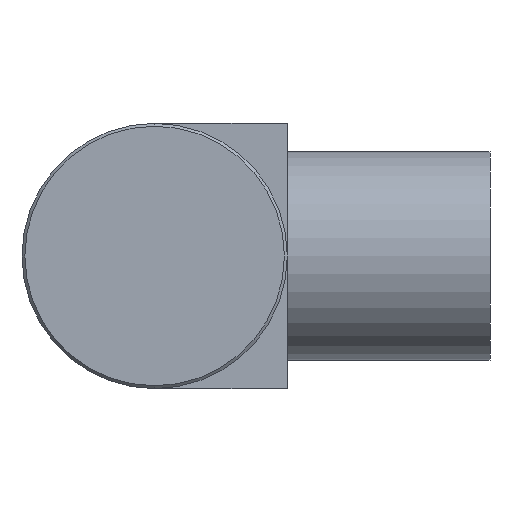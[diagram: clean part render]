
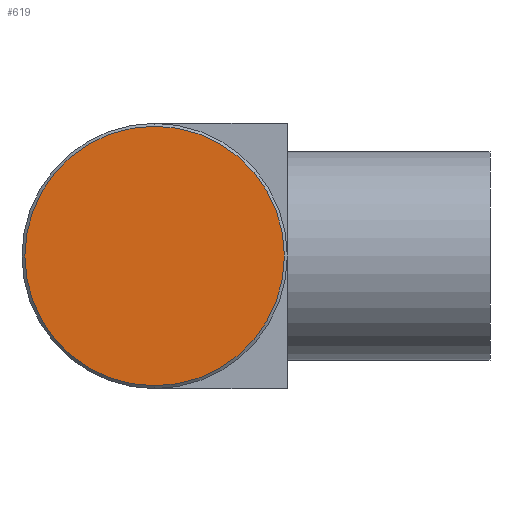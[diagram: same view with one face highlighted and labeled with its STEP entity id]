
A CAD part, left-side view. The second image highlights one B-rep face of the part: STEP entity #619.
In plain terms, the highlighted planar face has unit normal (-1, 0, 0).
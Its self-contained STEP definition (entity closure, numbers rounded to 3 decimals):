
#37 = AXIS2_PLACEMENT_3D ( 'NONE', #1021, #565, #169 ) ;
#62 = AXIS2_PLACEMENT_3D ( 'NONE', #353, #945, #532 ) ;
#169 = DIRECTION ( 'NONE',  ( 0., 0., 1. ) ) ;
#213 = EDGE_CURVE ( 'NONE', #268, #753, #317, .T. ) ;
#268 = VERTEX_POINT ( 'NONE', #835 ) ;
#271 = ORIENTED_EDGE ( 'NONE', *, *, #213, .T. ) ;
#310 = CARTESIAN_POINT ( 'NONE',  ( 0., 0., 0. ) ) ;
#317 = CIRCLE ( 'NONE', #665, 13.7 ) ;
#353 = CARTESIAN_POINT ( 'NONE',  ( 0., 0., 0. ) ) ;
#376 = CARTESIAN_POINT ( 'NONE',  ( 0., 0., -13.7 ) ) ;
#489 = DIRECTION ( 'NONE',  ( -1., 0., 0. ) ) ;
#509 = FACE_OUTER_BOUND ( 'NONE', #798, .T. ) ;
#532 = DIRECTION ( 'NONE',  ( 0., 0., -1. ) ) ;
#556 = DIRECTION ( 'NONE',  ( 0., 0., 1. ) ) ;
#565 = DIRECTION ( 'NONE',  ( -1., 0., 0. ) ) ;
#619 = ADVANCED_FACE ( 'NONE', ( #509 ), #857, .F. ) ;
#665 = AXIS2_PLACEMENT_3D ( 'NONE', #310, #489, #556 ) ;
#753 = VERTEX_POINT ( 'NONE', #376 ) ;
#770 = CIRCLE ( 'NONE', #37, 13.7 ) ;
#798 = EDGE_LOOP ( 'NONE', ( #838, #271 ) ) ;
#835 = CARTESIAN_POINT ( 'NONE',  ( 0., 0., 13.7 ) ) ;
#838 = ORIENTED_EDGE ( 'NONE', *, *, #1050, .T. ) ;
#857 = PLANE ( 'NONE',  #62 ) ;
#945 = DIRECTION ( 'NONE',  ( 1., 0., 0. ) ) ;
#1021 = CARTESIAN_POINT ( 'NONE',  ( 0., 0., 0. ) ) ;
#1050 = EDGE_CURVE ( 'NONE', #753, #268, #770, .T. ) ;
